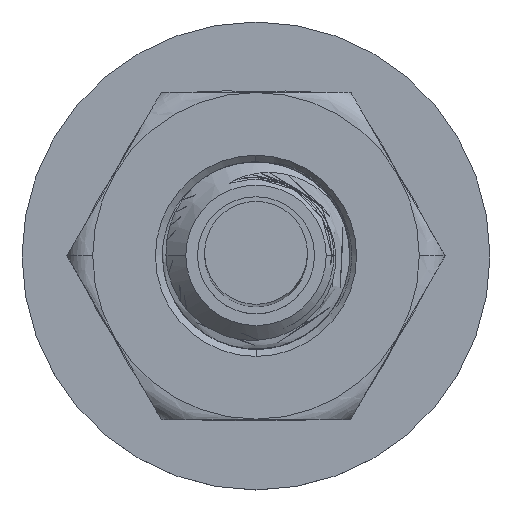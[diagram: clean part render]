
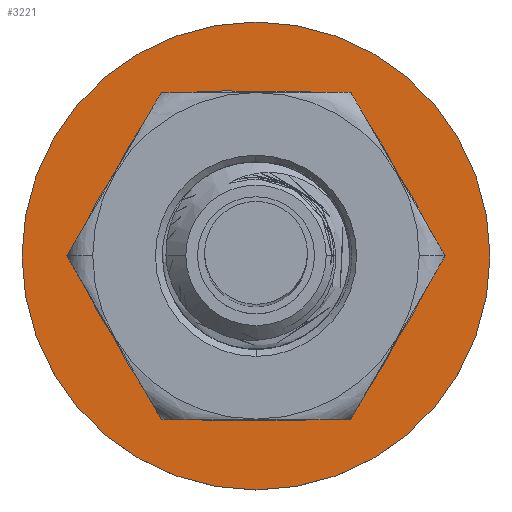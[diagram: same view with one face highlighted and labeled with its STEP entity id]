
A CAD part, top view. The second image highlights one B-rep face of the part: STEP entity #3221.
In plain terms, the highlighted planar face has unit normal (0, 0, 1).
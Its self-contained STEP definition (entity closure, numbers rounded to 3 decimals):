
#71 = AXIS2_PLACEMENT_3D ( 'NONE', #902, #4590, #941 ) ;
#351 = ORIENTED_EDGE ( 'NONE', *, *, #853, .T. ) ;
#843 = DIRECTION ( 'NONE',  ( 1., 0., 0. ) ) ;
#853 = EDGE_CURVE ( 'NONE', #6184, #3096, #7402, .T. ) ;
#902 = CARTESIAN_POINT ( 'NONE',  ( 0., 0., 0.5 ) ) ;
#941 = DIRECTION ( 'NONE',  ( 1., 0., 0. ) ) ;
#951 = EDGE_LOOP ( 'NONE', ( #351, #1144 ) ) ;
#1125 = FACE_BOUND ( 'NONE', #2924, .T. ) ;
#1144 = ORIENTED_EDGE ( 'NONE', *, *, #5970, .T. ) ;
#1450 = CARTESIAN_POINT ( 'NONE',  ( -2.25, 0., 0.5 ) ) ;
#1760 = DIRECTION ( 'NONE',  ( 1., 0., 0. ) ) ;
#1839 = DIRECTION ( 'NONE',  ( 1., 0., 0. ) ) ;
#2081 = CIRCLE ( 'NONE', #2338, 2.25 ) ;
#2147 = CARTESIAN_POINT ( 'NONE',  ( 5., 0., 0.5 ) ) ;
#2250 = CIRCLE ( 'NONE', #3247, 5. ) ;
#2332 = VERTEX_POINT ( 'NONE', #2906 ) ;
#2338 = AXIS2_PLACEMENT_3D ( 'NONE', #7708, #7278, #1839 ) ;
#2613 = CIRCLE ( 'NONE', #7081, 2.25 ) ;
#2906 = CARTESIAN_POINT ( 'NONE',  ( 2.25, 0., 0.5 ) ) ;
#2924 = EDGE_LOOP ( 'NONE', ( #4548, #6337 ) ) ;
#3096 = VERTEX_POINT ( 'NONE', #2147 ) ;
#3206 = DIRECTION ( 'NONE',  ( 0., 0., 1. ) ) ;
#3221 = ADVANCED_FACE ( 'NONE', ( #6008, #1125 ), #6680, .T. ) ;
#3247 = AXIS2_PLACEMENT_3D ( 'NONE', #6245, #3206, #5635 ) ;
#3364 = EDGE_CURVE ( 'NONE', #2332, #7663, #2081, .T. ) ;
#4016 = CARTESIAN_POINT ( 'NONE',  ( -5., 0., 0.5 ) ) ;
#4548 = ORIENTED_EDGE ( 'NONE', *, *, #5912, .F. ) ;
#4590 = DIRECTION ( 'NONE',  ( 0., 0., 1. ) ) ;
#5443 = DIRECTION ( 'NONE',  ( 0., 0., 1. ) ) ;
#5623 = AXIS2_PLACEMENT_3D ( 'NONE', #7242, #5443, #1760 ) ;
#5635 = DIRECTION ( 'NONE',  ( 1., 0., 0. ) ) ;
#5912 = EDGE_CURVE ( 'NONE', #7663, #2332, #2613, .T. ) ;
#5970 = EDGE_CURVE ( 'NONE', #3096, #6184, #2250, .T. ) ;
#6008 = FACE_OUTER_BOUND ( 'NONE', #951, .T. ) ;
#6184 = VERTEX_POINT ( 'NONE', #4016 ) ;
#6245 = CARTESIAN_POINT ( 'NONE',  ( 0., 0., 0.5 ) ) ;
#6280 = DIRECTION ( 'NONE',  ( 0., 0., 1. ) ) ;
#6337 = ORIENTED_EDGE ( 'NONE', *, *, #3364, .F. ) ;
#6680 = PLANE ( 'NONE',  #5623 ) ;
#6882 = CARTESIAN_POINT ( 'NONE',  ( 0., 0., 0.5 ) ) ;
#7081 = AXIS2_PLACEMENT_3D ( 'NONE', #6882, #6280, #843 ) ;
#7242 = CARTESIAN_POINT ( 'NONE',  ( 0., 0., 0.5 ) ) ;
#7278 = DIRECTION ( 'NONE',  ( 0., 0., 1. ) ) ;
#7402 = CIRCLE ( 'NONE', #71, 5. ) ;
#7663 = VERTEX_POINT ( 'NONE', #1450 ) ;
#7708 = CARTESIAN_POINT ( 'NONE',  ( 0., 0., 0.5 ) ) ;
